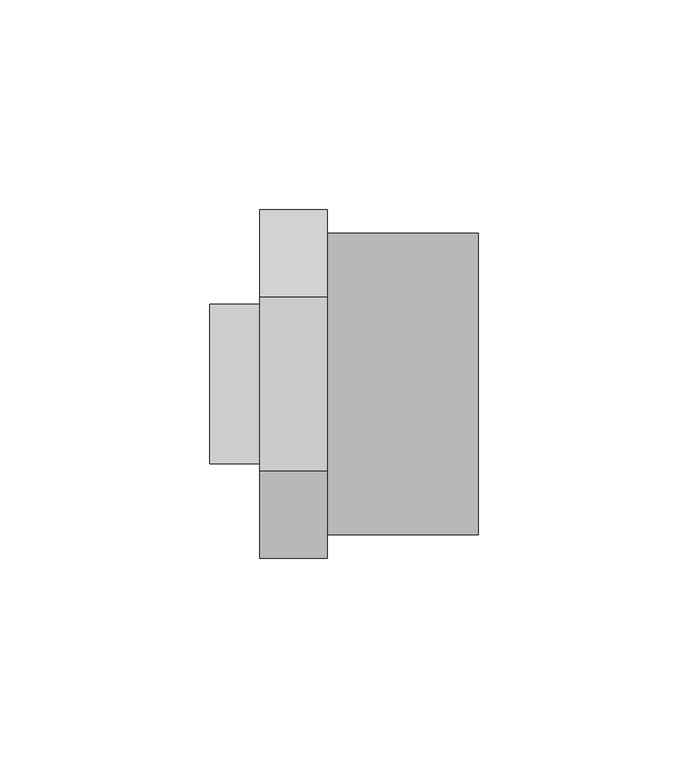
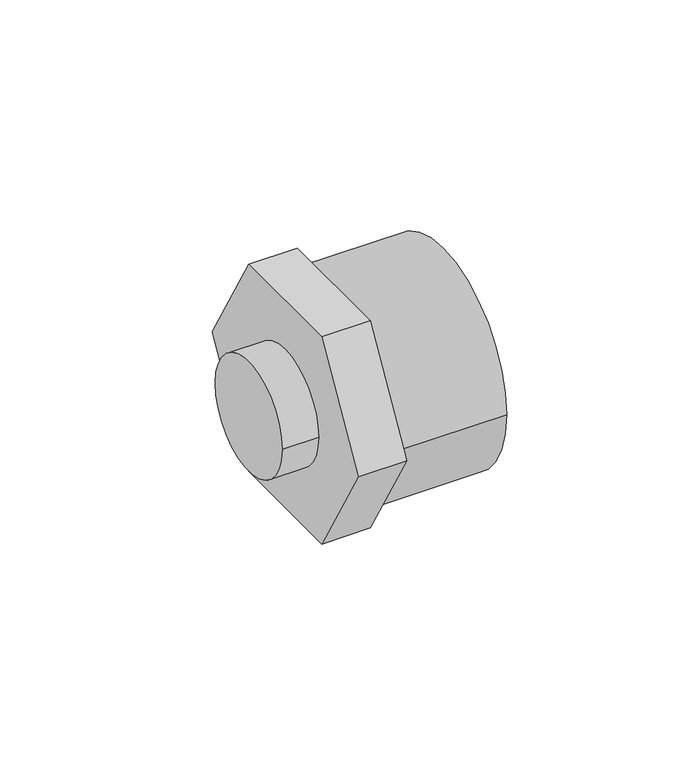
"""IFC4 building model written with IfcOpenShell, lengths in millimetres: pipe fitting geometry."""

from ifc_helpers import new_model, si_unit, point, frame, origin, origin_2d, place, context, project, spatial, polyline, circle_curve, trimmed, segment, composite_curve, outline, extrude, source, transform, mapped, element, save


def pipe_fitting_4f69fa14(model_context):
    return source(origin(), model_context, "Body", "SweptSolid", [
        extrude(outline(composite_curve([segment(trimmed(circle_curve(origin_2d(), 19.05), [point((19.05, 0.0))], [point((-19.05, 0.0))], False, "CARTESIAN"), True, "CONTINUOUS"), segment(trimmed(circle_curve(origin_2d(), 19.05), [point((-19.05, 0.0))], [point((19.05, 0.0))], False, "CARTESIAN"), True, "CONTINUOUS")], self_intersect=False)), frame((0.0, 0.0, 0.0), z_axis=(1.0, 0.0, 0.0), x_axis=(0.0, 1.0, 0.0)), (0.0, 0.0, 1.0), 12.0),
        extrude(outline(polyline([(-20.7846097, 36.0), (20.7846097, 36.0), (41.5692194, 0.0), (20.7846097, -36.0), (-20.7846097, -36.0), (-41.5692194, 0.0), (-20.7846097, 36.0)])), frame((12.0, 0.0, 0.0), z_axis=(1.0, 0.0, 0.0), x_axis=(0.0, 1.0, 0.0)), (0.0, 0.0, 1.0), 16.0),
        extrude(outline(composite_curve([segment(trimmed(circle_curve(origin_2d(), 36.0), [point((-36.0, 0.0))], [point((36.0, 0.0))], False, "CARTESIAN"), True, "CONTINUOUS"), segment(trimmed(circle_curve(origin_2d(), 36.0), [point((36.0, 0.0))], [point((-36.0, 0.0))], False, "CARTESIAN"), True, "CONTINUOUS")], self_intersect=False)), frame((28.0, 0.0, 0.0), z_axis=(1.0, 0.0, 0.0), x_axis=(0.0, 1.0, 0.0)), (0.0, 0.0, 1.0), 36.0),
    ])


if __name__ == "__main__":
    model = new_model("IFC4")
    model_context = context("Model", 3, world=origin())
    ifc_project = project(units=[si_unit("LENGTHUNIT", "METRE", prefix="MILLI")], contexts=[model_context])
    site = spatial("IfcSite", under=ifc_project)
    building = spatial("IfcBuilding", under=site)
    placement = place(None, origin())
    pipe_fitting_shape = pipe_fitting_4f69fa14(model_context)
    element("IfcPipeFitting", 1, at=placement, inside=building, context=model_context, shape_type="MappedRepresentation", body=[
        mapped(pipe_fitting_shape, transform((0.0, 0.0, 0.0), x_axis=(1.0, 0.0, 0.0), y_axis=(0.0, 1.0, 0.0), z_axis=(0.0, 0.0, 1.0))),
    ])
    save(model, "model.ifc")
